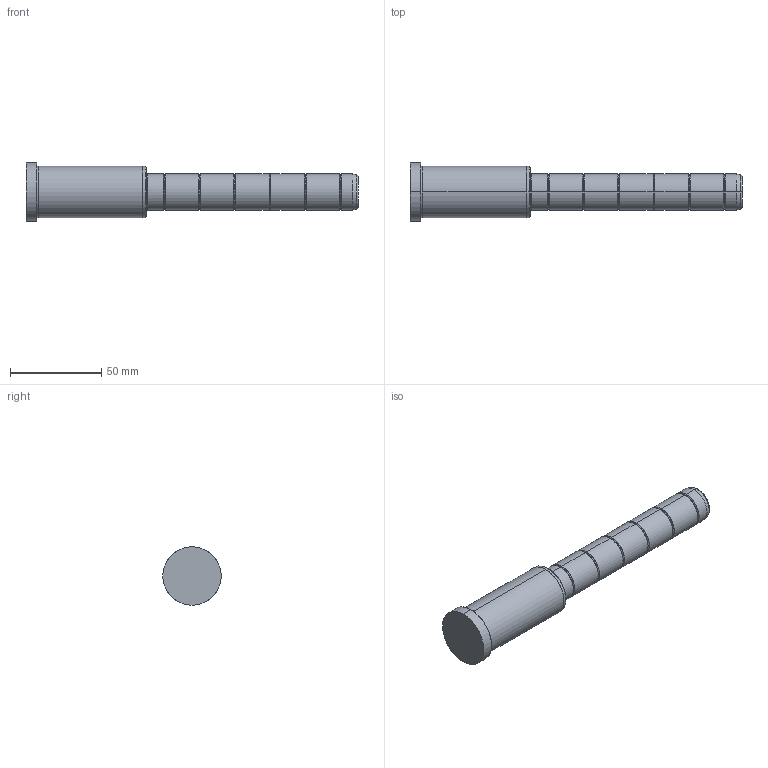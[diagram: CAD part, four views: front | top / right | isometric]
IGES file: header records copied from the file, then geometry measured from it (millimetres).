
Start section: SolidWorks IGES file using analytic representation for surfaces
Global section: file name: C:\Documents and Settings\kalite-mail\Desktop\IGS\D02\20\D02 - 20x66x116.IGS; native system: SolidWorks 2008; preprocessor: SolidWorks 2008; author: kalite-mail; date: 080616.163644; units: millimetre
Bounding box: 182 x 32 x 32 mm (x, y, z)
Surface area: 14877.3 mm2 (no closed solid volume)
Topology: 0 solids, 0 shells, 60 faces, 760 edges, 760 vertices
Faces by surface type: bspline 34, revolution 26
